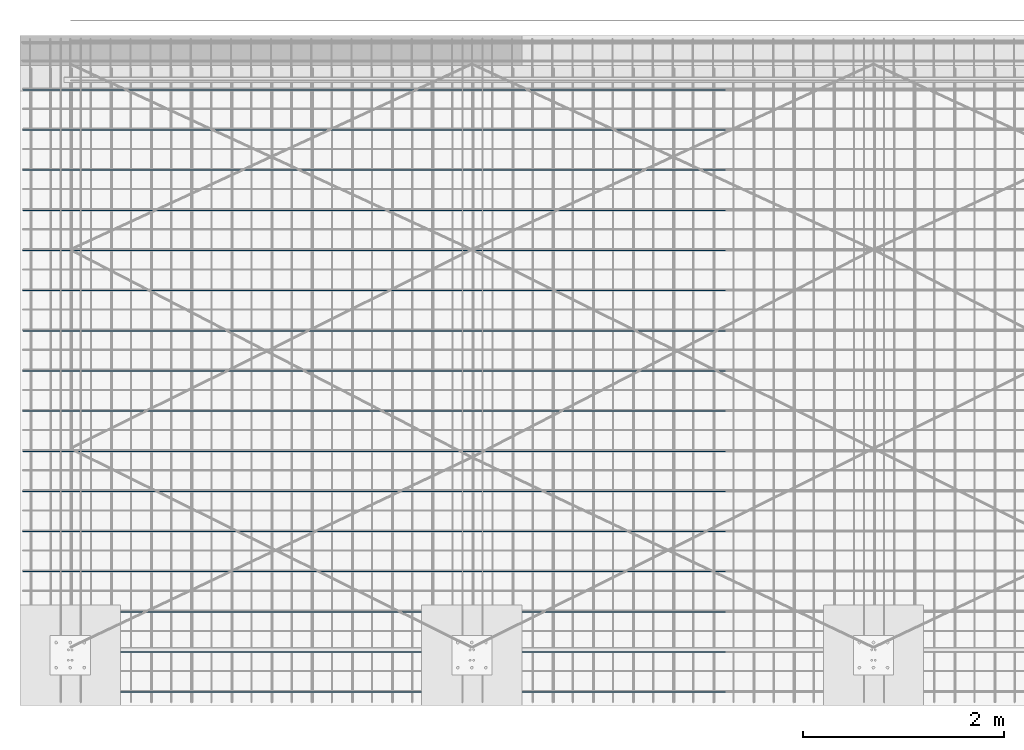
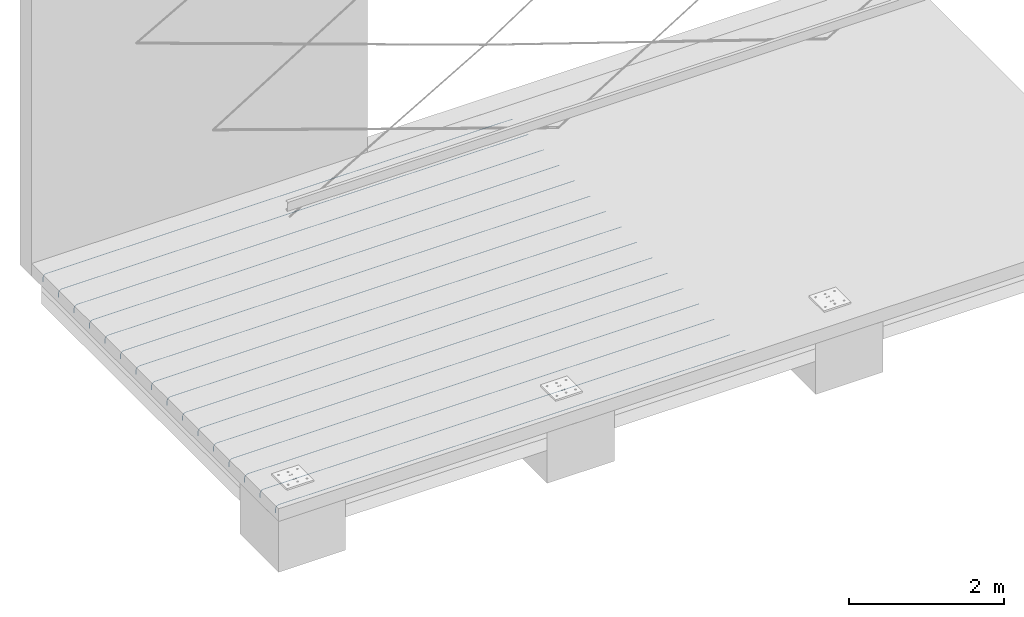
# One storey, part 3 of 8: 1 reinforcing bar.
"""IFC4X3_ADD2 building model written with IfcOpenShell, lengths in millimetres."""

from ifc_helpers import new_model, entity, si_unit, converted_unit, derived_unit, direction, frame, origin, place, context, subcontext, project, spatial, material, type_object, element, save


model = new_model("IFC4X3_ADD2")

# Units and contexts
model_context = context("Model", 3, precision=0.01, world=origin(), true_north=direction((6.123233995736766e-17, 1.0)))
plan_context = context("Plan", 3, precision=0.01, world=origin(), true_north=direction((6.123233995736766e-17, 1.0)))
body_context = subcontext(model_context, "Body", "Model", "MODEL_VIEW")
ifc_project = project(units=[si_unit("LENGTHUNIT", "METRE", prefix="MILLI"), converted_unit("PLANEANGLEUNIT", "DEGREE", entity("IfcPlaneAngleMeasure", 0.017453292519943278), si_unit("PLANEANGLEUNIT", "RADIAN"), dimensions=[0, 0, 0, 0, 0, 0, 0]), si_unit("AREAUNIT", "SQUARE_METRE"), si_unit("VOLUMEUNIT", "CUBIC_METRE"), derived_unit("THERMALTRANSMITTANCEUNIT", [(si_unit("MASSUNIT", "GRAM", prefix="KILO"), 1), (si_unit("THERMODYNAMICTEMPERATUREUNIT", "KELVIN"), -1), (si_unit("TIMEUNIT", "SECOND"), -3)]), derived_unit("USERDEFINED", [(si_unit("MASSUNIT", "GRAM", prefix="KILO"), 1), (si_unit("THERMODYNAMICTEMPERATUREUNIT", "KELVIN"), -1), (si_unit("TIMEUNIT", "SECOND"), -2)]), derived_unit("THERMALRESISTANCEUNIT", [(si_unit("MASSUNIT", "GRAM", prefix="KILO"), -1), (si_unit("TIMEUNIT", "SECOND"), 3), (si_unit("THERMODYNAMICTEMPERATUREUNIT", "KELVIN"), 1)]), si_unit("MASSUNIT", "GRAM", prefix="KILO"), derived_unit("MOMENTOFINERTIAUNIT", [(si_unit("LENGTHUNIT", "METRE"), 4)]), derived_unit("LINEARFORCEUNIT", [(si_unit("MASSUNIT", "GRAM", prefix="KILO"), 1), (si_unit("TIMEUNIT", "SECOND"), -2)]), derived_unit("WARPINGCONSTANTUNIT", [(si_unit("LENGTHUNIT", "METRE"), 6)]), si_unit("PRESSUREUNIT", "PASCAL"), derived_unit("MASSDENSITYUNIT", [(si_unit("MASSUNIT", "GRAM", prefix="KILO"), 1), (si_unit("LENGTHUNIT", "METRE"), -3)]), derived_unit("MODULUSOFELASTICITYUNIT", [(si_unit("MASSUNIT", "GRAM", prefix="KILO"), 1), (si_unit("TIMEUNIT", "SECOND"), -2), (si_unit("LENGTHUNIT", "METRE"), -1)]), derived_unit("THERMALEXPANSIONCOEFFICIENTUNIT", [(si_unit("THERMODYNAMICTEMPERATUREUNIT", "KELVIN"), -1)]), derived_unit("VAPORPERMEABILITYUNIT", [(si_unit("LENGTHUNIT", "METRE"), -1), (si_unit("TIMEUNIT", "SECOND"), 1)]), derived_unit("USERDEFINED", [(si_unit("MASSUNIT", "GRAM", prefix="KILO"), 1), (si_unit("TIMEUNIT", "SECOND"), -3), (si_unit("LENGTHUNIT", "METRE"), 3), (si_unit("ELECTRICCURRENTUNIT", "AMPERE"), -2)]), derived_unit("SPECIFICHEATCAPACITYUNIT", [(si_unit("THERMODYNAMICTEMPERATUREUNIT", "KELVIN"), -1), (si_unit("TIMEUNIT", "SECOND"), -2), (si_unit("LENGTHUNIT", "METRE"), 2)]), derived_unit("THERMALCONDUCTANCEUNIT", [(si_unit("MASSUNIT", "GRAM", prefix="KILO"), 1), (si_unit("THERMODYNAMICTEMPERATUREUNIT", "KELVIN"), -1), (si_unit("TIMEUNIT", "SECOND"), -3), (si_unit("LENGTHUNIT", "METRE"), 1)])], contexts=[model_context, plan_context])

# Site, building, storey
site_placement = place(None, origin())
site = spatial("IfcSite", under=ifc_project, at=site_placement, Name="Default", CompositionType="ELEMENT")
building_placement = place(site_placement, origin())
building = spatial("IfcBuilding", under=site, at=building_placement, Name="Complex structure", CompositionType="ELEMENT")
storey_placement = place(building_placement, frame((0.0, 0.0, -400.0)))
storey = spatial("IfcBuildingStorey", under=building, at=storey_placement, Name="Level -02", CompositionType="ELEMENT", Elevation=-400.0)

# Reinforcing bar
ifc_material = material(Name="Steel Rebar - B500A, B or C", Category="Unassigned")
reinforcing_bar_type = type_object("IfcReinforcingBarType", Name="Rebar Bar:10mm", PredefinedType="NOTDEFINED")
reinforcing_bar_placement = place(storey_placement, origin())
element("IfcReinforcingBar", 1, at=reinforcing_bar_placement, inside=storey, type_object=reinforcing_bar_type, material=ifc_material, Name="Rebar Bar:10mm : Shape 12", ObjectType="Rebar Bar:10mm", context=body_context, shape_type="AdvancedSweptSolid", body=[
    entity("IfcSweptDiskSolid", entity("IfcCompositeCurve", [entity("IfcCompositeCurveSegment", "CONTINUOUS", True, entity("IfcPolyline", [entity("IfcCartesianPoint", [-6620.221550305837, -1652.8667039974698, 160.0]), entity("IfcCartesianPoint", [-13560.221550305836, -1652.8667039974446, 160.0])])), entity("IfcCompositeCurveSegment", "CONTINUOUS", True, entity("IfcTrimmedCurve", entity("IfcCircle", entity("IfcAxis2Placement3D", entity("IfcCartesianPoint", [-13560.221550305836, -1652.8667039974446, 105.0]), entity("IfcDirection", [0.0, -1.0, 0.0]), entity("IfcDirection", [-1.0, 0.0, 0.0])), 55.0), [entity("IfcParameterValue", 269.9999999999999)], [entity("IfcParameterValue", 360.00000000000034)], True, "PARAMETER")), entity("IfcCompositeCurveSegment", "CONTINUOUS", True, entity("IfcPolyline", [entity("IfcCartesianPoint", [-13615.221550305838, -1652.8667039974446, 105.0]), entity("IfcCartesianPoint", [-13615.221550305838, -1652.8667039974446, 45.0])]))], False), 5.0, None, 0.0, 92.00000000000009),
    entity("IfcSweptDiskSolid", entity("IfcCompositeCurve", [entity("IfcCompositeCurveSegment", "CONTINUOUS", True, entity("IfcPolyline", [entity("IfcCartesianPoint", [-6620.221550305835, -1252.8667039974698, 160.0]), entity("IfcCartesianPoint", [-13560.221550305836, -1252.8667039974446, 160.0])])), entity("IfcCompositeCurveSegment", "CONTINUOUS", True, entity("IfcTrimmedCurve", entity("IfcCircle", entity("IfcAxis2Placement3D", entity("IfcCartesianPoint", [-13560.221550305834, -1252.8667039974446, 105.0]), entity("IfcDirection", [0.0, -1.0, 0.0]), entity("IfcDirection", [-1.0, 0.0, 0.0])), 55.0), [entity("IfcParameterValue", 269.9999999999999)], [entity("IfcParameterValue", 360.00000000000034)], True, "PARAMETER")), entity("IfcCompositeCurveSegment", "CONTINUOUS", True, entity("IfcPolyline", [entity("IfcCartesianPoint", [-13615.221550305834, -1252.8667039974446, 105.0]), entity("IfcCartesianPoint", [-13615.221550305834, -1252.8667039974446, 45.0])]))], False), 5.0, None, 0.0, 92.00000000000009),
    entity("IfcSweptDiskSolid", entity("IfcCompositeCurve", [entity("IfcCompositeCurveSegment", "CONTINUOUS", True, entity("IfcPolyline", [entity("IfcCartesianPoint", [-6620.221550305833, -852.8667039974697, 160.0]), entity("IfcCartesianPoint", [-13560.221550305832, -852.8667039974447, 160.0])])), entity("IfcCompositeCurveSegment", "CONTINUOUS", True, entity("IfcTrimmedCurve", entity("IfcCircle", entity("IfcAxis2Placement3D", entity("IfcCartesianPoint", [-13560.221550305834, -852.8667039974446, 105.0]), entity("IfcDirection", [0.0, -1.0, 0.0]), entity("IfcDirection", [-1.0, 0.0, 0.0])), 55.0), [entity("IfcParameterValue", 269.9999999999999)], [entity("IfcParameterValue", 360.00000000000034)], True, "PARAMETER")), entity("IfcCompositeCurveSegment", "CONTINUOUS", True, entity("IfcPolyline", [entity("IfcCartesianPoint", [-13615.221550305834, -852.8667039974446, 105.0]), entity("IfcCartesianPoint", [-13615.221550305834, -852.8667039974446, 45.0])]))], False), 5.0, None, 0.0, 92.00000000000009),
    entity("IfcSweptDiskSolid", entity("IfcCompositeCurve", [entity("IfcCompositeCurveSegment", "CONTINUOUS", True, entity("IfcPolyline", [entity("IfcCartesianPoint", [-6620.221550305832, -452.8667039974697, 160.0]), entity("IfcCartesianPoint", [-13560.221550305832, -452.86670399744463, 160.0])])), entity("IfcCompositeCurveSegment", "CONTINUOUS", True, entity("IfcTrimmedCurve", entity("IfcCircle", entity("IfcAxis2Placement3D", entity("IfcCartesianPoint", [-13560.221550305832, -452.8667039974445, 105.0]), entity("IfcDirection", [0.0, -1.0, 0.0]), entity("IfcDirection", [-1.0, 0.0, 0.0])), 55.0), [entity("IfcParameterValue", 269.9999999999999)], [entity("IfcParameterValue", 360.00000000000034)], True, "PARAMETER")), entity("IfcCompositeCurveSegment", "CONTINUOUS", True, entity("IfcPolyline", [entity("IfcCartesianPoint", [-13615.221550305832, -452.8667039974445, 105.0]), entity("IfcCartesianPoint", [-13615.221550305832, -452.8667039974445, 45.0])]))], False), 5.0, None, 0.0, 92.00000000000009),
    entity("IfcSweptDiskSolid", entity("IfcCompositeCurve", [entity("IfcCompositeCurveSegment", "CONTINUOUS", True, entity("IfcPolyline", [entity("IfcCartesianPoint", [-6620.221550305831, -52.86670399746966, 160.0]), entity("IfcCartesianPoint", [-13560.221550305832, -52.86670399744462, 160.0])])), entity("IfcCompositeCurveSegment", "CONTINUOUS", True, entity("IfcTrimmedCurve", entity("IfcCircle", entity("IfcAxis2Placement3D", entity("IfcCartesianPoint", [-13560.22155030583, -52.86670399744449, 105.0]), entity("IfcDirection", [0.0, -1.0, 0.0]), entity("IfcDirection", [-1.0, 0.0, 0.0])), 55.0), [entity("IfcParameterValue", 269.9999999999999)], [entity("IfcParameterValue", 360.00000000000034)], True, "PARAMETER")), entity("IfcCompositeCurveSegment", "CONTINUOUS", True, entity("IfcPolyline", [entity("IfcCartesianPoint", [-13615.22155030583, -52.86670399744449, 105.0]), entity("IfcCartesianPoint", [-13615.22155030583, -52.86670399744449, 45.0])]))], False), 5.0, None, 0.0, 92.00000000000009),
    entity("IfcSweptDiskSolid", entity("IfcCompositeCurve", [entity("IfcCompositeCurveSegment", "CONTINUOUS", True, entity("IfcPolyline", [entity("IfcCartesianPoint", [-6620.221550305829, 347.13329600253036, 160.0]), entity("IfcCartesianPoint", [-13560.221550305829, 347.1332960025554, 160.0])])), entity("IfcCompositeCurveSegment", "CONTINUOUS", True, entity("IfcTrimmedCurve", entity("IfcCircle", entity("IfcAxis2Placement3D", entity("IfcCartesianPoint", [-13560.22155030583, 347.13329600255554, 105.0]), entity("IfcDirection", [0.0, -1.0, 0.0]), entity("IfcDirection", [-1.0, 0.0, 0.0])), 55.0), [entity("IfcParameterValue", 269.9999999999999)], [entity("IfcParameterValue", 360.00000000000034)], True, "PARAMETER")), entity("IfcCompositeCurveSegment", "CONTINUOUS", True, entity("IfcPolyline", [entity("IfcCartesianPoint", [-13615.22155030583, 347.13329600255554, 105.0]), entity("IfcCartesianPoint", [-13615.22155030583, 347.13329600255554, 45.0])]))], False), 5.0, None, 0.0, 92.00000000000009),
    entity("IfcSweptDiskSolid", entity("IfcCompositeCurve", [entity("IfcCompositeCurveSegment", "CONTINUOUS", True, entity("IfcPolyline", [entity("IfcCartesianPoint", [-6620.221550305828, 747.1332960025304, 160.0]), entity("IfcCartesianPoint", [-13560.221550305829, 747.1332960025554, 160.0])])), entity("IfcCompositeCurveSegment", "CONTINUOUS", True, entity("IfcTrimmedCurve", entity("IfcCircle", entity("IfcAxis2Placement3D", entity("IfcCartesianPoint", [-13560.221550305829, 747.1332960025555, 105.0]), entity("IfcDirection", [0.0, -1.0, 0.0]), entity("IfcDirection", [-1.0, 0.0, 0.0])), 55.0), [entity("IfcParameterValue", 269.9999999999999)], [entity("IfcParameterValue", 360.00000000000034)], True, "PARAMETER")), entity("IfcCompositeCurveSegment", "CONTINUOUS", True, entity("IfcPolyline", [entity("IfcCartesianPoint", [-13615.221550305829, 747.1332960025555, 105.0]), entity("IfcCartesianPoint", [-13615.221550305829, 747.1332960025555, 45.0])]))], False), 5.0, None, 0.0, 92.00000000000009),
    entity("IfcSweptDiskSolid", entity("IfcCompositeCurve", [entity("IfcCompositeCurveSegment", "CONTINUOUS", True, entity("IfcPolyline", [entity("IfcCartesianPoint", [-6620.221550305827, 1147.1332960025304, 160.0]), entity("IfcCartesianPoint", [-13560.221550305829, 1147.1332960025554, 160.0])])), entity("IfcCompositeCurveSegment", "CONTINUOUS", True, entity("IfcTrimmedCurve", entity("IfcCircle", entity("IfcAxis2Placement3D", entity("IfcCartesianPoint", [-13560.221550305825, 1147.1332960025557, 105.0]), entity("IfcDirection", [0.0, -1.0, 0.0]), entity("IfcDirection", [-1.0, 0.0, 0.0])), 55.0), [entity("IfcParameterValue", 269.9999999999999)], [entity("IfcParameterValue", 360.00000000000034)], True, "PARAMETER")), entity("IfcCompositeCurveSegment", "CONTINUOUS", True, entity("IfcPolyline", [entity("IfcCartesianPoint", [-13615.221550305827, 1147.1332960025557, 105.0]), entity("IfcCartesianPoint", [-13615.221550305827, 1147.1332960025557, 45.0])]))], False), 5.0, None, 0.0, 92.00000000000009),
    entity("IfcSweptDiskSolid", entity("IfcCompositeCurve", [entity("IfcCompositeCurveSegment", "CONTINUOUS", True, entity("IfcPolyline", [entity("IfcCartesianPoint", [-6620.221550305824, 1547.1332960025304, 160.0]), entity("IfcCartesianPoint", [-13560.221550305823, 1547.1332960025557, 160.0])])), entity("IfcCompositeCurveSegment", "CONTINUOUS", True, entity("IfcTrimmedCurve", entity("IfcCircle", entity("IfcAxis2Placement3D", entity("IfcCartesianPoint", [-13560.221550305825, 1547.1332960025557, 105.0]), entity("IfcDirection", [0.0, -1.0, 0.0]), entity("IfcDirection", [-1.0, 0.0, 0.0])), 55.0), [entity("IfcParameterValue", 269.9999999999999)], [entity("IfcParameterValue", 360.00000000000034)], True, "PARAMETER")), entity("IfcCompositeCurveSegment", "CONTINUOUS", True, entity("IfcPolyline", [entity("IfcCartesianPoint", [-13615.221550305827, 1547.1332960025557, 105.0]), entity("IfcCartesianPoint", [-13615.221550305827, 1547.1332960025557, 45.0])]))], False), 5.0, None, 0.0, 92.00000000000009),
    entity("IfcSweptDiskSolid", entity("IfcCompositeCurve", [entity("IfcCompositeCurveSegment", "CONTINUOUS", True, entity("IfcPolyline", [entity("IfcCartesianPoint", [-6620.221550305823, 1947.1332960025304, 160.0]), entity("IfcCartesianPoint", [-13560.221550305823, 1947.1332960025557, 160.0])])), entity("IfcCompositeCurveSegment", "CONTINUOUS", True, entity("IfcTrimmedCurve", entity("IfcCircle", entity("IfcAxis2Placement3D", entity("IfcCartesianPoint", [-13560.221550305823, 1947.1332960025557, 105.0]), entity("IfcDirection", [0.0, -1.0, 0.0]), entity("IfcDirection", [-1.0, 0.0, 0.0])), 55.0), [entity("IfcParameterValue", 269.9999999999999)], [entity("IfcParameterValue", 360.00000000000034)], True, "PARAMETER")), entity("IfcCompositeCurveSegment", "CONTINUOUS", True, entity("IfcPolyline", [entity("IfcCartesianPoint", [-13615.221550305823, 1947.1332960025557, 105.0]), entity("IfcCartesianPoint", [-13615.221550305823, 1947.1332960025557, 45.0])]))], False), 5.0, None, 0.0, 92.00000000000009),
    entity("IfcSweptDiskSolid", entity("IfcCompositeCurve", [entity("IfcCompositeCurveSegment", "CONTINUOUS", True, entity("IfcPolyline", [entity("IfcCartesianPoint", [-6620.221550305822, 2347.1332960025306, 160.0]), entity("IfcCartesianPoint", [-13560.221550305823, 2347.1332960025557, 160.0])])), entity("IfcCompositeCurveSegment", "CONTINUOUS", True, entity("IfcTrimmedCurve", entity("IfcCircle", entity("IfcAxis2Placement3D", entity("IfcCartesianPoint", [-13560.221550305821, 2347.1332960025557, 105.0]), entity("IfcDirection", [0.0, -1.0, 0.0]), entity("IfcDirection", [-1.0, 0.0, 0.0])), 55.0), [entity("IfcParameterValue", 269.9999999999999)], [entity("IfcParameterValue", 360.00000000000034)], True, "PARAMETER")), entity("IfcCompositeCurveSegment", "CONTINUOUS", True, entity("IfcPolyline", [entity("IfcCartesianPoint", [-13615.221550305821, 2347.1332960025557, 105.0]), entity("IfcCartesianPoint", [-13615.221550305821, 2347.1332960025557, 45.0])]))], False), 5.0, None, 0.0, 92.00000000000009),
    entity("IfcSweptDiskSolid", entity("IfcCompositeCurve", [entity("IfcCompositeCurveSegment", "CONTINUOUS", True, entity("IfcPolyline", [entity("IfcCartesianPoint", [-6620.2215503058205, 2747.13329600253, 160.0]), entity("IfcCartesianPoint", [-13560.22155030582, 2747.1332960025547, 160.0])])), entity("IfcCompositeCurveSegment", "CONTINUOUS", True, entity("IfcTrimmedCurve", entity("IfcCircle", entity("IfcAxis2Placement3D", entity("IfcCartesianPoint", [-13560.221550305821, 2747.1332960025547, 105.0]), entity("IfcDirection", [0.0, -1.0, 0.0]), entity("IfcDirection", [-1.0, 0.0, 0.0])), 55.0), [entity("IfcParameterValue", 269.9999999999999)], [entity("IfcParameterValue", 360.00000000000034)], True, "PARAMETER")), entity("IfcCompositeCurveSegment", "CONTINUOUS", True, entity("IfcPolyline", [entity("IfcCartesianPoint", [-13615.221550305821, 2747.1332960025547, 105.0]), entity("IfcCartesianPoint", [-13615.221550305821, 2747.1332960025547, 45.0])]))], False), 5.0, None, 0.0, 92.00000000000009),
    entity("IfcSweptDiskSolid", entity("IfcCompositeCurve", [entity("IfcCompositeCurveSegment", "CONTINUOUS", True, entity("IfcPolyline", [entity("IfcCartesianPoint", [-6620.221550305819, 3147.1332960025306, 160.0]), entity("IfcCartesianPoint", [-13560.22155030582, 3147.1332960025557, 160.0])])), entity("IfcCompositeCurveSegment", "CONTINUOUS", True, entity("IfcTrimmedCurve", entity("IfcCircle", entity("IfcAxis2Placement3D", entity("IfcCartesianPoint", [-13560.22155030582, 3147.133296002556, 105.0]), entity("IfcDirection", [0.0, -1.0, 0.0]), entity("IfcDirection", [-1.0, 0.0, 0.0])), 55.0), [entity("IfcParameterValue", 269.9999999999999)], [entity("IfcParameterValue", 360.00000000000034)], True, "PARAMETER")), entity("IfcCompositeCurveSegment", "CONTINUOUS", True, entity("IfcPolyline", [entity("IfcCartesianPoint", [-13615.22155030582, 3147.133296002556, 105.0]), entity("IfcCartesianPoint", [-13615.22155030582, 3147.133296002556, 45.0])]))], False), 5.0, None, 0.0, 92.00000000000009),
    entity("IfcSweptDiskSolid", entity("IfcCompositeCurve", [entity("IfcCompositeCurveSegment", "CONTINUOUS", True, entity("IfcPolyline", [entity("IfcCartesianPoint", [-6620.221550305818, 3547.1332960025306, 160.0]), entity("IfcCartesianPoint", [-13560.22155030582, 3547.1332960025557, 160.0])])), entity("IfcCompositeCurveSegment", "CONTINUOUS", True, entity("IfcTrimmedCurve", entity("IfcCircle", entity("IfcAxis2Placement3D", entity("IfcCartesianPoint", [-13560.221550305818, 3547.133296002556, 105.0]), entity("IfcDirection", [0.0, -1.0, 0.0]), entity("IfcDirection", [-1.0, 0.0, 0.0])), 55.0), [entity("IfcParameterValue", 269.9999999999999)], [entity("IfcParameterValue", 360.00000000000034)], True, "PARAMETER")), entity("IfcCompositeCurveSegment", "CONTINUOUS", True, entity("IfcPolyline", [entity("IfcCartesianPoint", [-13615.221550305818, 3547.133296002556, 105.0]), entity("IfcCartesianPoint", [-13615.221550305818, 3547.133296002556, 45.0])]))], False), 5.0, None, 0.0, 92.00000000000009),
    entity("IfcSweptDiskSolid", entity("IfcCompositeCurve", [entity("IfcCompositeCurveSegment", "CONTINUOUS", True, entity("IfcPolyline", [entity("IfcCartesianPoint", [-6620.221550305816, 3947.1332960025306, 160.0]), entity("IfcCartesianPoint", [-13560.221550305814, 3947.1332960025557, 160.0])])), entity("IfcCompositeCurveSegment", "CONTINUOUS", True, entity("IfcTrimmedCurve", entity("IfcCircle", entity("IfcAxis2Placement3D", entity("IfcCartesianPoint", [-13560.221550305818, 3947.133296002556, 105.0]), entity("IfcDirection", [0.0, -1.0, 0.0]), entity("IfcDirection", [-1.0, 0.0, 0.0])), 55.0), [entity("IfcParameterValue", 269.9999999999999)], [entity("IfcParameterValue", 360.00000000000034)], True, "PARAMETER")), entity("IfcCompositeCurveSegment", "CONTINUOUS", True, entity("IfcPolyline", [entity("IfcCartesianPoint", [-13615.221550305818, 3947.133296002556, 105.0]), entity("IfcCartesianPoint", [-13615.221550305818, 3947.133296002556, 45.0])]))], False), 5.0, None, 0.0, 92.00000000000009),
    entity("IfcSweptDiskSolid", entity("IfcCompositeCurve", [entity("IfcCompositeCurveSegment", "CONTINUOUS", True, entity("IfcPolyline", [entity("IfcCartesianPoint", [-6620.221550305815, 4347.13329600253, 160.0]), entity("IfcCartesianPoint", [-13560.221550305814, 4347.133296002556, 160.0])])), entity("IfcCompositeCurveSegment", "CONTINUOUS", True, entity("IfcTrimmedCurve", entity("IfcCircle", entity("IfcAxis2Placement3D", entity("IfcCartesianPoint", [-13560.221550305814, 4347.133296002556, 105.0]), entity("IfcDirection", [0.0, -1.0, 0.0]), entity("IfcDirection", [-1.0, 0.0, 0.0])), 55.0), [entity("IfcParameterValue", 269.9999999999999)], [entity("IfcParameterValue", 360.00000000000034)], True, "PARAMETER")), entity("IfcCompositeCurveSegment", "CONTINUOUS", True, entity("IfcPolyline", [entity("IfcCartesianPoint", [-13615.221550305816, 4347.133296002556, 105.0]), entity("IfcCartesianPoint", [-13615.221550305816, 4347.133296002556, 45.0])]))], False), 5.0, None, 0.0, 92.00000000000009),
])

save(model, "model.ifc")
